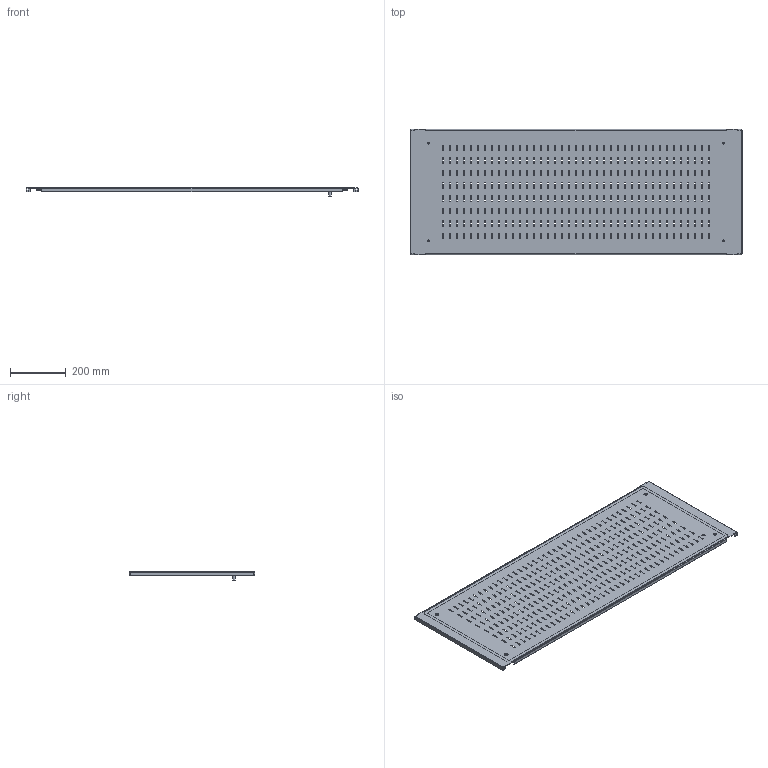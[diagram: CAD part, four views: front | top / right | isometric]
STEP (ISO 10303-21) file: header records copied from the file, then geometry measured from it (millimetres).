
FILE_DESCRIPTION(('STEP AP203'), '1');
FILE_NAME('Ïàíåëü ëèöåâàÿ ïåðôîðèðîâàííàÿ 450õ1200 ìì OptiBox M 419958 ÊÝÀÇ', '', ('UNSPECIFIED'), ('UNSPECIFIED'), 'C3D Converter', 'C3D Toolkit', '');
FILE_SCHEMA(('CONFIG_CONTROL_DESIGN'));
Length unit declared in the file: millimetre
Bounding box: 1186.4 x 447 x 28.9 mm (x, y, z)
Volume: 973469 mm3; surface area: 1209740.4 mm2
Topology: 3 solids, 3 shells, 1416 faces, 4129 edges, 2726 vertices
Faces by surface type: plane 1357, cylinder 51, bspline 8
Full cylindrical faces by diameter (mm): 0.75 x1, 1 x1, 5 x2, 7.3 x4, 8 x1, 9.3 x1, 13 x1, 13.5 x4
Entity records: 48172 total; most frequent: CARTESIAN_POINT 9493, ORIENTED_EDGE 8228, DIRECTION 6966, EDGE_CURVE 4114, LINE 4008, VECTOR 4008, VERTEX_POINT 2726, EDGE_LOOP 2076
